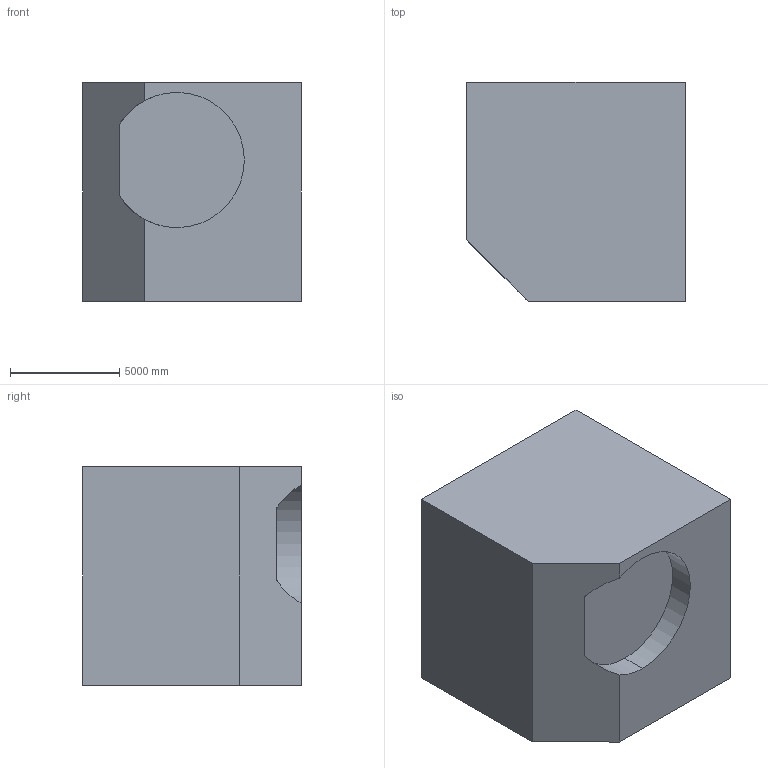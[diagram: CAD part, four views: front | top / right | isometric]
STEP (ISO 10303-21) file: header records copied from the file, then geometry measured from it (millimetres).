
FILE_DESCRIPTION (( 'STEP AP203' ), '1' );
FILE_NAME ('8.STEP', '2022-08-30T14:00:22', ( 'user' ), ( '' ), 'SwSTEP 2.0', 'SolidWorks 2021', '' );
FILE_SCHEMA (( 'CONFIG_CONTROL_DESIGN' ));
Length unit declared in the file: centimetre
Products named in the file (1): 8
Bounding box: 10000 x 10000 x 10000 mm (x, y, z)
Volume: 930011204039.6 mm3; surface area: 589736749.8 mm2
Topology: 1 solids, 1 shells, 11 faces, 27 edges, 18 vertices
Faces by surface type: plane 8, cylinder 3
Entity records: 404 total; most frequent: CARTESIAN_POINT 63, DIRECTION 55, ORIENTED_EDGE 54, EDGE_CURVE 27, VECTOR 19, LINE 19, AXIS2_PLACEMENT_3D 18, VERTEX_POINT 18
